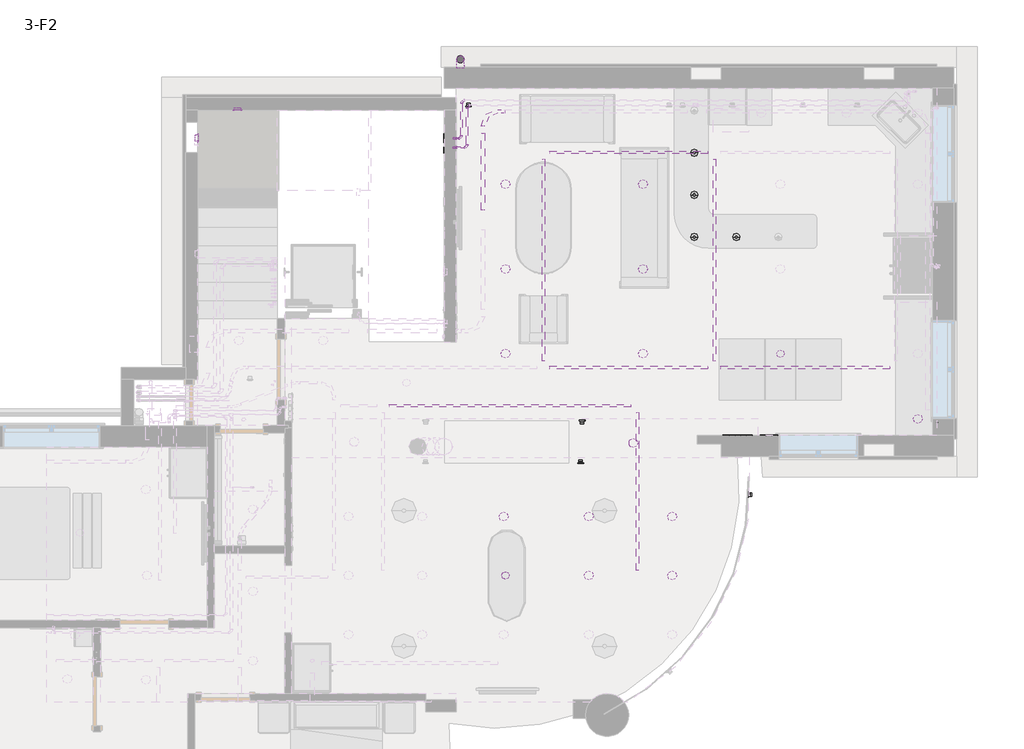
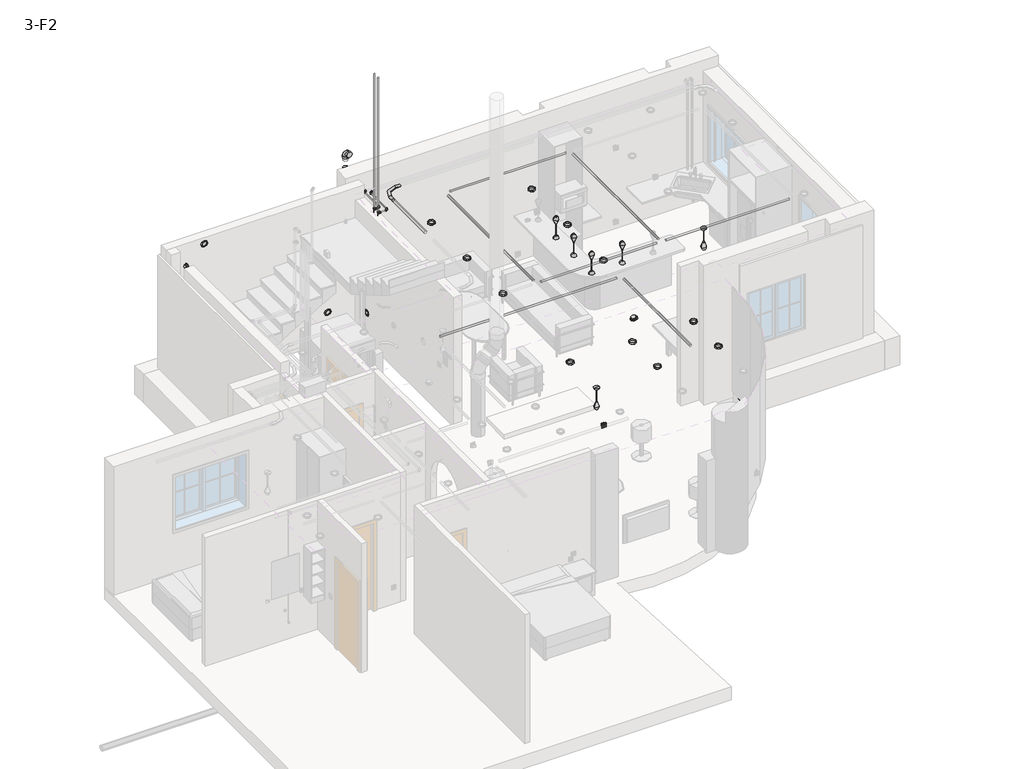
# One storey, part 11 of 12: 23 light fixtures, 12 pipe segments, 11 pipe fittings, 8 cable carrier segments, 8 proxies, 8 switching devices, 3 electric appliances, 1 cable carrier fitting.
"""IFC4 building model written with IfcOpenShell, lengths in millimetres."""

from ifc_helpers import new_model, si_unit, point, frame, frame_2d, origin, place, context, project, spatial, circle_curve, trimmed, segment, composite_curve, outline, extrude, transform, mapped, element, save
from components import wall_mounted_socket_ups_wall_mounted_socket_ups_4524048d, m_conduit_elbow_aluminum_standard_a49322c3, wall_mounted_data_socket_wall_mounted_data_socket_ap_474314e8, m_downlight_recessed_can_152mm_incandescent_120v_1ee42939, m_pendant_lamp_art_glass_led_standard_2036dae1, m_recessed_lamp_round_led_e6f06c98, m_recessed_lamp_round_led_ae0475c0, m_bend_pvc_sch_40_dwv_standard_1fb0f857, m_bend_pvc_sch_40_dwv_standard_be9000f5, m_tee_reducing_sanitary_pvc_sch_40_dwv_standard_acb4ff67, m_tee_reducing_sanitary_pvc_sch_40_dwv_standard_1dbb164d, m_tee_reducing_sanitary_pvc_sch_40_dwv_standard_070fdd32, m_tee_reducing_sanitary_pvc_sch_40_dwv_standard_7913f2a5, switching_device_8f59fbb7

model = new_model("IFC4")

# Units and contexts
model_context = context("Model", 3, world=origin())
ifc_project = project(units=[si_unit("LENGTHUNIT", "METRE", prefix="MILLI")], contexts=[model_context])

# Site, building, storey
site = spatial("IfcSite", under=ifc_project)
building = spatial("IfcBuilding", under=site)
storey = spatial("IfcBuildingStorey", under=building, Name="3-F2", Elevation=6550.0)

# Proxies
placement = place(None, origin())
wall_mounted_socket_ups_wall_mounted_socket_ups_shape = wall_mounted_socket_ups_wall_mounted_socket_ups_4524048d(model_context)
element("IfcBuildingElementProxy", 1, Name="WALL MOUNTED SOCKET : WALL MOUNTED SOCKET", ObjectType="WALL MOUNTED SOCKET : WALL MOUNTED SOCKET", at=placement, inside=storey, context=model_context, shape_type="MappedRepresentation", body=[
    mapped(wall_mounted_socket_ups_wall_mounted_socket_ups_shape, transform((-627.4765921, 6666.6620874, 7000.0), x_axis=(0.0, 1.0, 0.0), y_axis=(0.0, 0.0, 1.0), z_axis=(1.0, 0.0, 0.0))),
])
element("IfcBuildingElementProxy", 2, Name="WALL MOUNTED SOCKET : WALL MOUNTED SOCKET", ObjectType="WALL MOUNTED SOCKET : WALL MOUNTED SOCKET", at=placement, inside=storey, context=model_context, shape_type="MappedRepresentation", body=[
    mapped(wall_mounted_socket_ups_wall_mounted_socket_ups_shape, transform((4052.5234079, 3170.7214801, 7000.0), x_axis=(-1.0, 0.0, 0.0), y_axis=(0.0, 0.0, 1.0), z_axis=(0.0, 1.0, 0.0))),
])
element("IfcBuildingElementProxy", 3, Name="WALL MOUNTED SOCKET UPS : WALL MOUNTED SOCKET UPS", ObjectType="WALL MOUNTED SOCKET UPS : WALL MOUNTED SOCKET UPS", at=placement, inside=storey, context=model_context, shape_type="MappedRepresentation", body=[
    mapped(wall_mounted_socket_ups_wall_mounted_socket_ups_shape, transform((1407.8158273, 2722.6176449, 7000.0), x_axis=(1.0, 0.0, 0.0), y_axis=(0.0, 0.0, 1.0), z_axis=(0.0, -1.0, 0.0))),
])
element("IfcBuildingElementProxy", 4, Name="WALL MOUNTED SOCKET UPS : WALL MOUNTED SOCKET UPS", ObjectType="WALL MOUNTED SOCKET UPS : WALL MOUNTED SOCKET UPS", at=placement, inside=storey, context=model_context, shape_type="MappedRepresentation", body=[
    mapped(wall_mounted_socket_ups_wall_mounted_socket_ups_shape, transform((4155.8960616, 2204.1673876, 7000.0), x_axis=(-0.02173123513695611, -0.9997638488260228, 0.0), y_axis=(0.0, 0.0, 1.0000000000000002), z_axis=(-0.9997638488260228, 0.02173123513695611, 0.0))),
])
element("IfcBuildingElementProxy", 5, Name="WALL MOUNTED SOCKET UPS : WALL MOUNTED SOCKET UPS", ObjectType="WALL MOUNTED SOCKET UPS : WALL MOUNTED SOCKET UPS", at=placement, inside=storey, context=model_context, shape_type="MappedRepresentation", body=[
    mapped(wall_mounted_socket_ups_wall_mounted_socket_ups_shape, transform((-827.4765921, 7844.4560655, 5921.4545455), x_axis=(0.0, -1.0, 0.0), y_axis=(0.0, 0.0, 1.0), z_axis=(-1.0, 0.0, 0.0))),
])
element("IfcBuildingElementProxy", 6, Name="WALL MOUNTED SOCKET UPS : WALL MOUNTED SOCKET UPS", ObjectType="WALL MOUNTED SOCKET UPS : WALL MOUNTED SOCKET UPS", at=placement, inside=storey, context=model_context, shape_type="MappedRepresentation", body=[
    mapped(wall_mounted_socket_ups_wall_mounted_socket_ups_shape, transform((-427.4765921, 8561.6620874, 7000.0), x_axis=(1.0, 0.0, 0.0), y_axis=(0.0, 0.0, 1.0), z_axis=(0.0, -1.0, 0.0))),
])
element("IfcBuildingElementProxy", 7, Name="WALL MOUNTED SOCKET UPS : WALL MOUNTED SOCKET UPS", ObjectType="WALL MOUNTED SOCKET UPS : WALL MOUNTED SOCKET UPS", at=placement, inside=storey, context=model_context, shape_type="MappedRepresentation", body=[
    mapped(wall_mounted_socket_ups_wall_mounted_socket_ups_shape, transform((7235.5234079, 3410.6486583, 7750.0), x_axis=(0.0, -1.0, 0.0), y_axis=(0.0, 0.0, 1.0), z_axis=(-1.0, 0.0, 0.0))),
])
element("IfcBuildingElementProxy", 8, Name="WALL MOUNTED SOCKET UPS : WALL MOUNTED SOCKET UPS", ObjectType="WALL MOUNTED SOCKET UPS : WALL MOUNTED SOCKET UPS", at=placement, inside=storey, context=model_context, shape_type="MappedRepresentation", body=[
    mapped(wall_mounted_socket_ups_wall_mounted_socket_ups_shape, transform((1432.5234079, 3412.6176449, 7000.0), x_axis=(-1.0, 0.0, 0.0), y_axis=(0.0, 0.0, 1.0), z_axis=(0.0, 1.0, 0.0))),
])

# Cable carrier fitting
m_conduit_elbow_aluminum_standard_shape = m_conduit_elbow_aluminum_standard_a49322c3(model_context)
element("IfcCableCarrierFitting", 9, ObjectType="M_Conduit Elbow - Aluminum : Standard", at=placement, inside=storey, context=model_context, shape_type="MappedRepresentation", body=[
    mapped(m_conduit_elbow_aluminum_standard_shape, transform((-191.902625, 8480.3, 9619.835), x_axis=(-1.0, 0.0, 0.0), y_axis=(0.0, -1.0, 0.0), z_axis=(0.0, 0.0, 1.0))),
])

# Cable carrier segments
element("IfcCableCarrierSegment", 10, ObjectType="Power", at=placement, inside=storey, context=model_context, shape_type="SweptSolid", body=[
    extrude(outline(composite_curve([segment(trimmed(circle_curve(frame_2d((9619.835, -191.902625)), 30.165), [point((9619.835, -161.737625))], [point((9650.0, -191.902625))], False, "CARTESIAN"), True, "CONTINUOUS"), segment(trimmed(circle_curve(frame_2d((9619.835, -191.902625)), 30.165), [point((9650.0, -191.902625))], [point((9619.835, -222.067625))], False, "CARTESIAN"), True, "CONTINUOUS"), segment(trimmed(circle_curve(frame_2d((9619.835, -191.902625)), 30.165), [point((9619.835, -222.067625))], [point((9589.67, -191.902625))], False, "CARTESIAN"), True, "CONTINUOUS"), segment(trimmed(circle_curve(frame_2d((9619.835, -191.902625)), 30.165), [point((9589.67, -191.902625))], [point((9619.835, -161.737625))], False, "CARTESIAN"), True, "CONTINUOUS")], self_intersect=False)), frame((0.0, 6857.8429651, 0.0), z_axis=(0.0, 1.0, 0.0), x_axis=(0.0, 0.0, 1.0)), (0.0, 0.0, 1.0), 1266.8570349),
])
element("IfcCableCarrierSegment", 11, ObjectType="Power", at=placement, inside=storey, context=model_context, shape_type="SweptSolid", body=[
    extrude(outline(composite_curve([segment(trimmed(circle_curve(frame_2d((9630.825, 797.2454291)), 21.08), [point((9630.825, 818.3254291))], [point((9651.905, 797.2454291))], False, "CARTESIAN"), True, "CONTINUOUS"), segment(trimmed(circle_curve(frame_2d((9630.825, 797.2454291)), 21.08), [point((9651.905, 797.2454291))], [point((9630.825, 776.1654291))], False, "CARTESIAN"), True, "CONTINUOUS"), segment(trimmed(circle_curve(frame_2d((9630.825, 797.2454291)), 21.08), [point((9630.825, 776.1654291))], [point((9609.745, 797.2454291))], False, "CARTESIAN"), True, "CONTINUOUS"), segment(trimmed(circle_curve(frame_2d((9630.825, 797.2454291)), 21.08), [point((9609.745, 797.2454291))], [point((9630.825, 818.3254291))], False, "CARTESIAN"), True, "CONTINUOUS")], self_intersect=False)), frame((0.0, 4389.4560655, 0.0), z_axis=(0.0, 1.0, 0.0), x_axis=(0.0, 0.0, 1.0)), (0.0, 0.0, 1.0), 3309.175),
])
element("IfcCableCarrierSegment", 12, ObjectType="Power", at=placement, inside=storey, context=model_context, shape_type="SweptSolid", body=[
    extrude(outline(composite_curve([segment(trimmed(circle_curve(frame_2d((9630.825, 3596.8241796)), 21.08), [point((9630.825, 3617.9041796))], [point((9651.905, 3596.8241796))], False, "CARTESIAN"), True, "CONTINUOUS"), segment(trimmed(circle_curve(frame_2d((9630.825, 3596.8241796)), 21.08), [point((9651.905, 3596.8241796))], [point((9630.825, 3575.7441796))], False, "CARTESIAN"), True, "CONTINUOUS"), segment(trimmed(circle_curve(frame_2d((9630.825, 3596.8241796)), 21.08), [point((9630.825, 3575.7441796))], [point((9609.745, 3596.8241796))], False, "CARTESIAN"), True, "CONTINUOUS"), segment(trimmed(circle_curve(frame_2d((9630.825, 3596.8241796)), 21.08), [point((9609.745, 3596.8241796))], [point((9630.825, 3617.9041796))], False, "CARTESIAN"), True, "CONTINUOUS")], self_intersect=False)), frame((0.0, 4389.4560655, 0.0), z_axis=(0.0, 1.0, 0.0), x_axis=(0.0, 0.0, 1.0)), (0.0, 0.0, 1.0), 3309.175),
])
element("IfcCableCarrierSegment", 13, ObjectType="Power", at=placement, inside=storey, context=model_context, shape_type="SweptSolid", body=[
    extrude(outline(composite_curve([segment(trimmed(circle_curve(frame_2d((4284.4560655, 9630.825)), 21.08), [point((4263.3760655, 9630.825))], [point((4284.4560655, 9651.905))], False, "CARTESIAN"), True, "CONTINUOUS"), segment(trimmed(circle_curve(frame_2d((4284.4560655, 9630.825)), 21.08), [point((4284.4560655, 9651.905))], [point((4305.5360655, 9630.825))], False, "CARTESIAN"), True, "CONTINUOUS"), segment(trimmed(circle_curve(frame_2d((4284.4560655, 9630.825)), 21.08), [point((4305.5360655, 9630.825))], [point((4284.4560655, 9609.745))], False, "CARTESIAN"), True, "CONTINUOUS"), segment(trimmed(circle_curve(frame_2d((4284.4560655, 9630.825)), 21.08), [point((4284.4560655, 9609.745))], [point((4263.3760655, 9630.825))], False, "CARTESIAN"), True, "CONTINUOUS")], self_intersect=False)), frame((902.2454291, 0.0, 0.0), z_axis=(1.0, 0.0, 0.0), x_axis=(0.0, 1.0, 0.0)), (0.0, 0.0, 1.0), 2589.5787505),
])
element("IfcCableCarrierSegment", 14, ObjectType="Power", at=placement, inside=storey, context=model_context, shape_type="SweptSolid", body=[
    extrude(outline(composite_curve([segment(trimmed(circle_curve(frame_2d((4284.4560655, 9630.825)), 21.08), [point((4263.3760655, 9630.825))], [point((4284.4560655, 9651.905))], False, "CARTESIAN"), True, "CONTINUOUS"), segment(trimmed(circle_curve(frame_2d((4284.4560655, 9630.825)), 21.08), [point((4284.4560655, 9651.905))], [point((4305.5360655, 9630.825))], False, "CARTESIAN"), True, "CONTINUOUS"), segment(trimmed(circle_curve(frame_2d((4284.4560655, 9630.825)), 21.08), [point((4305.5360655, 9630.825))], [point((4284.4560655, 9609.745))], False, "CARTESIAN"), True, "CONTINUOUS"), segment(trimmed(circle_curve(frame_2d((4284.4560655, 9630.825)), 21.08), [point((4284.4560655, 9609.745))], [point((4263.3760655, 9630.825))], False, "CARTESIAN"), True, "CONTINUOUS")], self_intersect=False)), frame((3701.8241796, 0.0, 0.0), z_axis=(1.0, 0.0, 0.0), x_axis=(0.0, 1.0, 0.0)), (0.0, 0.0, 1.0), 2764.1087505),
])
element("IfcCableCarrierSegment", 15, ObjectType="Power", at=placement, inside=storey, context=model_context, shape_type="SweptSolid", body=[
    extrude(outline(composite_curve([segment(trimmed(circle_curve(frame_2d((7803.6310655, 9630.825)), 21.08), [point((7824.7110655, 9630.825))], [point((7803.6310655, 9609.745))], False, "CARTESIAN"), True, "CONTINUOUS"), segment(trimmed(circle_curve(frame_2d((7803.6310655, 9630.825)), 21.08), [point((7803.6310655, 9609.745))], [point((7782.5510655, 9630.825))], False, "CARTESIAN"), True, "CONTINUOUS"), segment(trimmed(circle_curve(frame_2d((7803.6310655, 9630.825)), 21.08), [point((7782.5510655, 9630.825))], [point((7803.6310655, 9651.905))], False, "CARTESIAN"), True, "CONTINUOUS"), segment(trimmed(circle_curve(frame_2d((7803.6310655, 9630.825)), 21.08), [point((7803.6310655, 9651.905))], [point((7824.7110655, 9630.825))], False, "CARTESIAN"), True, "CONTINUOUS")], self_intersect=False)), frame((902.2454291, 0.0, 0.0), z_axis=(1.0, 0.0, 0.0), x_axis=(0.0, 1.0, 0.0)), (0.0, 0.0, 1.0), 2589.5787505),
])
element("IfcCableCarrierSegment", 16, ObjectType="Power", at=placement, inside=storey, context=model_context, shape_type="SweptSolid", body=[
    extrude(outline(composite_curve([segment(trimmed(circle_curve(frame_2d((3654.4560655, 9630.825)), 21.08), [point((3633.3760655, 9630.825))], [point((3654.4560655, 9651.905))], False, "CARTESIAN"), True, "CONTINUOUS"), segment(trimmed(circle_curve(frame_2d((3654.4560655, 9630.825)), 21.08), [point((3654.4560655, 9651.905))], [point((3675.5360655, 9630.825))], False, "CARTESIAN"), True, "CONTINUOUS"), segment(trimmed(circle_curve(frame_2d((3654.4560655, 9630.825)), 21.08), [point((3675.5360655, 9630.825))], [point((3654.4560655, 9609.745))], False, "CARTESIAN"), True, "CONTINUOUS"), segment(trimmed(circle_curve(frame_2d((3654.4560655, 9630.825)), 21.08), [point((3654.4560655, 9609.745))], [point((3633.3760655, 9630.825))], False, "CARTESIAN"), True, "CONTINUOUS")], self_intersect=False)), frame((-1722.4765921, 0.0, 0.0), z_axis=(1.0, 0.0, 0.0), x_axis=(0.0, 1.0, 0.0)), (0.0, 0.0, 1.0), 3953.0),
])
element("IfcCableCarrierSegment", 17, ObjectType="Power", at=placement, inside=storey, context=model_context, shape_type="SweptSolid", body=[
    extrude(outline(composite_curve([segment(trimmed(circle_curve(frame_2d((9630.825, 2335.5234079)), 21.08), [point((9630.825, 2314.4434079))], [point((9609.745, 2335.5234079))], False, "CARTESIAN"), True, "CONTINUOUS"), segment(trimmed(circle_curve(frame_2d((9630.825, 2335.5234079)), 21.08), [point((9609.745, 2335.5234079))], [point((9630.825, 2356.6034079))], False, "CARTESIAN"), True, "CONTINUOUS"), segment(trimmed(circle_curve(frame_2d((9630.825, 2335.5234079)), 21.08), [point((9630.825, 2356.6034079))], [point((9651.905, 2335.5234079))], False, "CARTESIAN"), True, "CONTINUOUS"), segment(trimmed(circle_curve(frame_2d((9630.825, 2335.5234079)), 21.08), [point((9651.905, 2335.5234079))], [point((9630.825, 2314.4434079))], False, "CARTESIAN"), True, "CONTINUOUS")], self_intersect=False)), frame((0.0, 957.6176449, 0.0), z_axis=(0.0, 1.0, 0.0), x_axis=(0.0, 0.0, 1.0)), (0.0, 0.0, 1.0), 2591.8384206),
])

# Electric appliances
wall_mounted_data_socket_wall_mounted_data_socket_ap_shape = wall_mounted_data_socket_wall_mounted_data_socket_ap_474314e8(model_context)
element("IfcElectricAppliance", 18, ObjectType="WALL MOUNTED DATA SOCKET : WALL MOUNTED DATA SOCKET AP", at=placement, inside=storey, context=model_context, shape_type="MappedRepresentation", body=[
    mapped(wall_mounted_data_socket_wall_mounted_data_socket_ap_shape, transform((-627.4765921, 6572.6620874, 7750.0), x_axis=(0.0, 1.0, 0.0), y_axis=(0.0, 0.0, 1.0), z_axis=(1.0, 0.0, 0.0))),
])
element("IfcElectricAppliance", 19, ObjectType="WALL MOUNTED DATA SOCKET : WALL MOUNTED DATA SOCKET AP", at=placement, inside=storey, context=model_context, shape_type="MappedRepresentation", body=[
    mapped(wall_mounted_data_socket_wall_mounted_data_socket_ap_shape, transform((-627.4765921, 6572.6620874, 7000.0), x_axis=(0.0, 1.0, 0.0), y_axis=(0.0, 0.0, 1.0), z_axis=(1.0, 0.0, 0.0))),
])
element("IfcElectricAppliance", 20, ObjectType="WALL MOUNTED DATA SOCKET : WALL MOUNTED DATA SOCKET AP", at=placement, inside=storey, context=model_context, shape_type="MappedRepresentation", body=[
    mapped(wall_mounted_data_socket_wall_mounted_data_socket_ap_shape, transform((7235.5234079, 3290.7214801, 7750.0), x_axis=(0.0, -1.0, 0.0), y_axis=(0.0, 0.0, 1.0), z_axis=(-1.0, 0.0, 0.0))),
])

# Light fixtures
m_downlight_recessed_can_152mm_incandescent_120v_shape = m_downlight_recessed_can_152mm_incandescent_120v_1ee42939(model_context)
element("IfcLightFixture", 21, ObjectType="M_Downlight - Recessed Can : 203mm Incandescent - 277V", at=placement, inside=storey, context=model_context, shape_type="MappedRepresentation", body=[
    mapped(m_downlight_recessed_can_152mm_incandescent_120v_shape, transform((2427.0414867, 4510.6486583, 6935.4), x_axis=(1.0, 0.0, 0.0), y_axis=(0.0, 1.0, 0.0), z_axis=(0.0, 0.0, 1.0))),
])
element("IfcLightFixture", 22, ObjectType="M_Downlight - Recessed Can : 203mm Incandescent - 277V", at=placement, inside=storey, context=model_context, shape_type="MappedRepresentation", body=[
    mapped(m_downlight_recessed_can_152mm_incandescent_120v_shape, transform((2427.0414867, 5897.9422566, 6935.4), x_axis=(1.0, 0.0, 0.0), y_axis=(0.0, 1.0, 0.0), z_axis=(0.0, 0.0, 1.0))),
])
element("IfcLightFixture", 23, ObjectType="M_Downlight - Recessed Can : 203mm Incandescent - 277V", at=placement, inside=storey, context=model_context, shape_type="MappedRepresentation", body=[
    mapped(m_downlight_recessed_can_152mm_incandescent_120v_shape, transform((177.8005261, 4510.6486583, 6935.4), x_axis=(1.0, 0.0, 0.0), y_axis=(0.0, 1.0, 0.0), z_axis=(0.0, 0.0, 1.0))),
])
element("IfcLightFixture", 24, ObjectType="M_Downlight - Recessed Can : 203mm Incandescent - 277V", at=placement, inside=storey, context=model_context, shape_type="MappedRepresentation", body=[
    mapped(m_downlight_recessed_can_152mm_incandescent_120v_shape, transform((177.8005261, 5897.9422566, 6935.4), x_axis=(1.0, 0.0, 0.0), y_axis=(0.0, 1.0, 0.0), z_axis=(0.0, 0.0, 1.0))),
])
element("IfcLightFixture", 25, ObjectType="M_Downlight - Recessed Can : 203mm Incandescent - 277V", at=placement, inside=storey, context=model_context, shape_type="MappedRepresentation", body=[
    mapped(m_downlight_recessed_can_152mm_incandescent_120v_shape, transform((2906.3219274, 1844.6820281, 6935.4), x_axis=(1.0, 0.0, 0.0), y_axis=(0.0, 1.0, 0.0), z_axis=(0.0, 0.0, 1.0))),
])
element("IfcLightFixture", 26, ObjectType="M_Downlight - Recessed Can : 203mm Incandescent - 277V", at=placement, inside=storey, context=model_context, shape_type="MappedRepresentation", body=[
    mapped(m_downlight_recessed_can_152mm_incandescent_120v_shape, transform((2906.3219274, 877.7272222, 6935.4), x_axis=(1.0, 0.0, 0.0), y_axis=(0.0, 1.0, 0.0), z_axis=(0.0, 0.0, 1.0))),
])
element("IfcLightFixture", 27, ObjectType="M_Downlight - Recessed Can : 203mm Incandescent - 277V", at=placement, inside=storey, context=model_context, shape_type="MappedRepresentation", body=[
    mapped(m_downlight_recessed_can_152mm_incandescent_120v_shape, transform((147.3848417, 1844.6820281, 6935.4), x_axis=(1.0, 0.0, 0.0), y_axis=(0.0, 1.0, 0.0), z_axis=(0.0, 0.0, 1.0))),
])
element("IfcLightFixture", 28, ObjectType="M_Downlight - Recessed Can : 203mm Incandescent - 277V", at=placement, inside=storey, context=model_context, shape_type="MappedRepresentation", body=[
    mapped(m_downlight_recessed_can_152mm_incandescent_120v_shape, transform((1542.0612267, 1844.6820281, 6935.4), x_axis=(1.0, 0.0, 0.0), y_axis=(0.0, 1.0, 0.0), z_axis=(0.0, 0.0, 1.0))),
])
element("IfcLightFixture", 29, ObjectType="M_Downlight - Recessed Can : 203mm Incandescent - 277V", at=placement, inside=storey, context=model_context, shape_type="MappedRepresentation", body=[
    mapped(m_downlight_recessed_can_152mm_incandescent_120v_shape, transform((1542.0612267, 877.7272222, 6935.4), x_axis=(1.0, 0.0, 0.0), y_axis=(0.0, 1.0, 0.0), z_axis=(0.0, 0.0, 1.0))),
])
element("IfcLightFixture", 30, ObjectType="M_Downlight - Recessed Can : 203mm Incandescent - 277V", at=placement, inside=storey, context=model_context, shape_type="MappedRepresentation", body=[
    mapped(m_downlight_recessed_can_152mm_incandescent_120v_shape, transform((6925.5234079, 3441.636834, 6935.4), x_axis=(1.0, 0.0, 0.0), y_axis=(0.0, 1.0, 0.0), z_axis=(0.0, 0.0, 1.0))),
])
element("IfcLightFixture", 31, ObjectType="M_Downlight - Recessed Can : 203mm Incandescent - 277V", at=placement, inside=storey, context=model_context, shape_type="MappedRepresentation", body=[
    mapped(m_downlight_recessed_can_152mm_incandescent_120v_shape, transform((2427.0414867, 7285.2358549, 6935.4), x_axis=(1.0, 0.0, 0.0), y_axis=(0.0, 1.0, 0.0), z_axis=(0.0, 0.0, 1.0))),
])
element("IfcLightFixture", 32, ObjectType="M_Downlight - Recessed Can : 203mm Incandescent - 277V", at=placement, inside=storey, context=model_context, shape_type="MappedRepresentation", body=[
    mapped(m_downlight_recessed_can_152mm_incandescent_120v_shape, transform((177.8005261, 7285.2358549, 6935.4), x_axis=(1.0, 0.0, 0.0), y_axis=(0.0, 1.0, 0.0), z_axis=(0.0, 0.0, 1.0))),
])
m_pendant_lamp_art_glass_led_standard_shape = m_pendant_lamp_art_glass_led_standard_2036dae1(model_context)
element("IfcLightFixture", 33, ObjectType="M_Pendant Lamp - Art Glass - LED : Standard", at=placement, inside=storey, context=model_context, shape_type="MappedRepresentation", body=[
    mapped(m_pendant_lamp_art_glass_led_standard_shape, transform((4677.1953882, 4510.6486583, 9450.0), x_axis=(1.0, 0.0, 0.0), y_axis=(0.0, -1.0, 0.0), z_axis=(0.0, 0.0, -1.0))),
])
element("IfcLightFixture", 34, ObjectType="M_Pendant Lamp - Art Glass - LED : Standard", at=placement, inside=storey, context=model_context, shape_type="MappedRepresentation", body=[
    mapped(m_pendant_lamp_art_glass_led_standard_shape, transform((178.7134671, 877.7272222, 9450.0), x_axis=(1.0, 0.0, 0.0), y_axis=(0.0, -1.0, 0.0), z_axis=(0.0, 0.0, -1.0))),
])
element("IfcLightFixture", 35, ObjectType="M_Pendant Lamp - Art Glass - LED : Standard", at=placement, inside=storey, context=model_context, shape_type="MappedRepresentation", body=[
    mapped(m_pendant_lamp_art_glass_led_standard_shape, transform((3268.7904308, 7801.6620874, 7700.0), x_axis=(1.0, 0.0, 0.0), y_axis=(0.0, 1.0, 0.0), z_axis=(0.0, 0.0, 1.0))),
])
element("IfcLightFixture", 36, ObjectType="M_Pendant Lamp - Art Glass - LED : Standard", at=placement, inside=storey, context=model_context, shape_type="MappedRepresentation", body=[
    mapped(m_pendant_lamp_art_glass_led_standard_shape, transform((3268.7904308, 6421.6620874, 7700.0), x_axis=(1.0, 0.0, 0.0), y_axis=(0.0, 1.0, 0.0), z_axis=(0.0, 0.0, 1.0))),
])
element("IfcLightFixture", 37, ObjectType="M_Pendant Lamp - Art Glass - LED : Standard", at=placement, inside=storey, context=model_context, shape_type="MappedRepresentation", body=[
    mapped(m_pendant_lamp_art_glass_led_standard_shape, transform((3956.8968727, 6421.6620874, 7700.0), x_axis=(1.0, 0.0, 0.0), y_axis=(0.0, 1.0, 0.0), z_axis=(0.0, 0.0, 1.0))),
])
element("IfcLightFixture", 38, ObjectType="M_Pendant Lamp - Art Glass - LED : Standard", at=placement, inside=storey, context=model_context, shape_type="MappedRepresentation", body=[
    mapped(m_pendant_lamp_art_glass_led_standard_shape, transform((3268.7904308, 7111.6620874, 7700.0), x_axis=(1.0, 0.0, 0.0), y_axis=(0.0, 1.0, 0.0), z_axis=(0.0, 0.0, 1.0))),
])
m_recessed_lamp_round_led_shape = m_recessed_lamp_round_led_e6f06c98(model_context)
element("IfcLightFixture", 39, ObjectType="M_Recessed Lamp - Round - LED : 100mm Trimless Downlight", at=placement, inside=storey, context=model_context, shape_type="MappedRepresentation", body=[
    mapped(m_recessed_lamp_round_led_shape, transform((2268.722062, 3047.1839324, 9032.4585472), x_axis=(0.0, 1.0, 0.0), y_axis=(0.9708763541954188, 0.0, 0.2395811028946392), z_axis=(0.2395811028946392, 0.0, -0.9708763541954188))),
])
element("IfcLightFixture", 40, ObjectType="M_Recessed Lamp - Round - LED : 100mm Trimless Downlight", at=placement, inside=storey, context=model_context, shape_type="MappedRepresentation", body=[
    mapped(m_recessed_lamp_round_led_shape, transform((-4207.4765921, 8501.6620874, 9760.5263158), x_axis=(1.0, 0.0, 0.0), y_axis=(0.0, 0.0, 1.0), z_axis=(0.0, -1.0, 0.0))),
])
element("IfcLightFixture", 41, ObjectType="M_Recessed Lamp - Round - LED : 100mm Trimless Downlight", at=placement, inside=storey, context=model_context, shape_type="MappedRepresentation", body=[
    mapped(m_recessed_lamp_round_led_shape, transform((-4857.4765921, 8043.0590764, 9710.5263158), x_axis=(0.0, 0.0, 1.0), y_axis=(0.0, -1.0, 0.0), z_axis=(1.0, 0.0, 0.0))),
])
element("IfcLightFixture", 42, ObjectType="M_Recessed Lamp - Round - LED : 100mm Trimless Downlight", at=placement, inside=storey, context=model_context, shape_type="MappedRepresentation", body=[
    mapped(m_recessed_lamp_round_led_shape, transform((-1442.4765921, 8501.6620874, 7170.4545455), x_axis=(1.0, 0.0, 0.0), y_axis=(0.0, 0.0, 1.0), z_axis=(0.0, -1.0, 0.0))),
])
m_recessed_lamp_round_led_2_shape = m_recessed_lamp_round_led_ae0475c0(model_context)
element("IfcLightFixture", 43, ObjectType="M_Recessed Lamp - Round - LED : 100mm Trimless Downlight", at=placement, inside=storey, context=model_context, shape_type="MappedRepresentation", body=[
    mapped(m_recessed_lamp_round_led_2_shape, transform((-827.4765921, 8043.0590764, 7220.4545455), x_axis=(0.0, 1.0, 0.0), y_axis=(0.0, 0.0, -1.0), z_axis=(-1.0, 0.0, 0.0))),
])

# Pipe fittings
m_bend_pvc_sch_40_dwv_standard_shape = m_bend_pvc_sch_40_dwv_standard_1fb0f857(model_context)
element("IfcPipeFitting", 44, ObjectType="M_Bend - PVC - Sch 40 - DWV : Standard", at=placement, inside=storey, context=model_context, shape_type="MappedRepresentation", body=[
    mapped(m_bend_pvc_sch_40_dwv_standard_shape, transform((-559.7171152, 9331.6620874, 10169.0), x_axis=(0.0, 0.0, 1.0), y_axis=(0.0, -1.0, 0.0), z_axis=(1.0, 0.0, 0.0))),
])
m_bend_pvc_sch_40_dwv_standard_2_shape = m_bend_pvc_sch_40_dwv_standard_be9000f5(model_context)
element("IfcPipeFitting", 45, ObjectType="M_Bend - PVC - Sch 40 - DWV : Standard", at=placement, inside=storey, context=model_context, shape_type="MappedRepresentation", body=[
    mapped(m_bend_pvc_sch_40_dwv_standard_2_shape, transform((-542.4765921, 8656.372794, 9620.0), x_axis=(-1.0, 0.0, 0.0), y_axis=(0.0, -1.0, 0.0), z_axis=(0.0, 0.0, 1.0))),
])
element("IfcPipeFitting", 46, ObjectType="M_Bend - PVC - Sch 40 - DWV : Standard", at=placement, inside=storey, context=model_context, shape_type="MappedRepresentation", body=[
    mapped(m_bend_pvc_sch_40_dwv_standard_2_shape, transform((-452.4765921, 8576.372794, 9620.0), x_axis=(-1.0, 0.0, 0.0), y_axis=(0.0, -1.0, 0.0), z_axis=(0.0, 0.0, 1.0))),
])
element("IfcPipeFitting", 47, ObjectType="M_Bend - PVC - Sch 40 - DWV : Standard", at=placement, inside=storey, context=model_context, shape_type="MappedRepresentation", body=[
    mapped(m_bend_pvc_sch_40_dwv_standard_2_shape, transform((-662.4765921, 7886.6620874, 3450.0), x_axis=(0.0, 0.0, -1.0), y_axis=(1.0, 0.0, 0.0), z_axis=(0.0, -1.0, 0.0))),
])
element("IfcPipeFitting", 48, ObjectType="M_Bend - PVC - Sch 40 - DWV : Standard", at=placement, inside=storey, context=model_context, shape_type="MappedRepresentation", body=[
    mapped(m_bend_pvc_sch_40_dwv_standard_2_shape, transform((-542.4765921, 8036.6620874, 9620.0), x_axis=(1.0, 0.0, 0.0), y_axis=(0.0, 1.0, 0.0), z_axis=(0.0, 0.0, 1.0))),
])
element("IfcPipeFitting", 49, ObjectType="M_Bend - PVC - Sch 40 - DWV : Standard", at=placement, inside=storey, context=model_context, shape_type="MappedRepresentation", body=[
    mapped(m_bend_pvc_sch_40_dwv_standard_2_shape, transform((-452.4765921, 7886.6620874, 9620.0), x_axis=(1.0, 0.0, 0.0), y_axis=(0.0, 1.0, 0.0), z_axis=(0.0, 0.0, 1.0))),
])
element("IfcPipeFitting", 50, ObjectType="M_Bend - PVC - Sch 40 - DWV : Standard", at=placement, inside=storey, context=model_context, shape_type="MappedRepresentation", body=[
    mapped(m_bend_pvc_sch_40_dwv_standard_2_shape, transform((-662.4765921, 8036.6620874, 3450.0), x_axis=(0.0, 0.0, -1.0), y_axis=(0.995342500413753, 0.09640179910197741, 0.0), z_axis=(0.09640179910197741, -0.995342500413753, 0.0))),
])
m_tee_reducing_sanitary_pvc_sch_40_dwv_standard_shape = m_tee_reducing_sanitary_pvc_sch_40_dwv_standard_acb4ff67(model_context)
element("IfcPipeFitting", 51, ObjectType="M_Tee Reducing Sanitary - PVC - Sch 40 - DWV : Standard", at=placement, inside=storey, context=model_context, shape_type="MappedRepresentation", body=[
    mapped(m_tee_reducing_sanitary_pvc_sch_40_dwv_standard_shape, transform((-559.7171152, 9331.4749674, 2864.9945571), x_axis=(0.9999999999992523, 0.0, -1.222961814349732e-06), y_axis=(-1.222961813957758e-06, -2.5318458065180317e-05, -0.9999999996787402), z_axis=(-3.096350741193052e-11, 0.9999999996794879, -2.5318458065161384e-05))),
])
m_tee_reducing_sanitary_pvc_sch_40_dwv_standard_2_shape = m_tee_reducing_sanitary_pvc_sch_40_dwv_standard_1dbb164d(model_context)
element("IfcPipeFitting", 52, ObjectType="M_Tee Reducing Sanitary - PVC - Sch 40 - DWV : Standard", at=placement, inside=storey, context=model_context, shape_type="MappedRepresentation", body=[
    mapped(m_tee_reducing_sanitary_pvc_sch_40_dwv_standard_2_shape, transform((-662.4765921, 8036.6620874, 6270.0015045), x_axis=(0.0, 0.0, -1.0), y_axis=(-1.0, 0.0, 0.0), z_axis=(0.0, 1.0, 0.0))),
])
m_tee_reducing_sanitary_pvc_sch_40_dwv_standard_3_shape = m_tee_reducing_sanitary_pvc_sch_40_dwv_standard_070fdd32(model_context)
element("IfcPipeFitting", 53, ObjectType="M_Tee Reducing Sanitary - PVC - Sch 40 - DWV : Standard", at=placement, inside=storey, context=model_context, shape_type="MappedRepresentation", body=[
    mapped(m_tee_reducing_sanitary_pvc_sch_40_dwv_standard_3_shape, transform((-662.4765921, 7886.6620874, 9620.0), x_axis=(0.0, 0.0, 1.0), y_axis=(-1.0, 0.0, 0.0), z_axis=(0.0, -1.0, 0.0))),
])
m_tee_reducing_sanitary_pvc_sch_40_dwv_standard_4_shape = m_tee_reducing_sanitary_pvc_sch_40_dwv_standard_7913f2a5(model_context)
element("IfcPipeFitting", 54, ObjectType="M_Tee Reducing Sanitary - PVC - Sch 40 - DWV : Standard", at=placement, inside=storey, context=model_context, shape_type="MappedRepresentation", body=[
    mapped(m_tee_reducing_sanitary_pvc_sch_40_dwv_standard_4_shape, transform((-662.4765921, 8036.6620874, 9620.0), x_axis=(0.0, 0.0, 1.0), y_axis=(-1.0, 0.0, 0.0), z_axis=(0.0, -1.0, 0.0))),
])

# Pipe segments
element("IfcPipeSegment", 55, ObjectType="PVC - DWV", at=placement, inside=storey, context=model_context, shape_type="SweptSolid", body=[
    extrude(outline(composite_curve([segment(trimmed(circle_curve(frame_2d((8036.6620874, 9620.0)), 13.335), [point((8049.9970874, 9620.0))], [point((8036.6620874, 9606.665))], False, "CARTESIAN"), True, "CONTINUOUS"), segment(trimmed(circle_curve(frame_2d((8036.6620874, 9620.0)), 13.335), [point((8036.6620874, 9606.665))], [point((8023.3270874, 9620.0))], False, "CARTESIAN"), True, "CONTINUOUS"), segment(trimmed(circle_curve(frame_2d((8036.6620874, 9620.0)), 13.335), [point((8023.3270874, 9620.0))], [point((8036.6620874, 9633.335))], False, "CARTESIAN"), True, "CONTINUOUS"), segment(trimmed(circle_curve(frame_2d((8036.6620874, 9620.0)), 13.335), [point((8036.6620874, 9633.335))], [point((8049.9970874, 9620.0))], False, "CARTESIAN"), True, "CONTINUOUS")], self_intersect=False)), frame((-617.4586234, 0.0, 0.0), z_axis=(1.0, 0.0, 0.0), x_axis=(0.0, 1.0, 0.0)), (0.0, 0.0, 1.0), 28.1679687),
])
element("IfcPipeSegment", 56, ObjectType="PVC - DWV", at=placement, inside=storey, context=model_context, shape_type="SweptSolid", body=[
    extrude(outline(composite_curve([segment(trimmed(circle_curve(frame_2d((7886.6620874, 9620.0)), 13.335), [point((7899.9970874, 9620.0))], [point((7886.6620874, 9606.665))], False, "CARTESIAN"), True, "CONTINUOUS"), segment(trimmed(circle_curve(frame_2d((7886.6620874, 9620.0)), 13.335), [point((7886.6620874, 9606.665))], [point((7873.3270874, 9620.0))], False, "CARTESIAN"), True, "CONTINUOUS"), segment(trimmed(circle_curve(frame_2d((7886.6620874, 9620.0)), 13.335), [point((7873.3270874, 9620.0))], [point((7886.6620874, 9633.335))], False, "CARTESIAN"), True, "CONTINUOUS"), segment(trimmed(circle_curve(frame_2d((7886.6620874, 9620.0)), 13.335), [point((7886.6620874, 9633.335))], [point((7899.9970874, 9620.0))], False, "CARTESIAN"), True, "CONTINUOUS")], self_intersect=False)), frame((-617.4586234, 0.0, 0.0), z_axis=(1.0, 0.0, 0.0), x_axis=(0.0, 1.0, 0.0)), (0.0, 0.0, 1.0), 118.1679687),
])
element("IfcPipeSegment", 57, ObjectType="PVC - DWV", at=placement, inside=storey, context=model_context, shape_type="SweptSolid", body=[
    extrude(outline(composite_curve([segment(trimmed(circle_curve(frame_2d((9620.0, -542.4765921)), 13.335), [point((9620.0, -529.1415921))], [point((9633.335, -542.4765921))], False, "CARTESIAN"), True, "CONTINUOUS"), segment(trimmed(circle_curve(frame_2d((9620.0, -542.4765921)), 13.335), [point((9633.335, -542.4765921))], [point((9620.0, -555.8115921))], False, "CARTESIAN"), True, "CONTINUOUS"), segment(trimmed(circle_curve(frame_2d((9620.0, -542.4765921)), 13.335), [point((9620.0, -555.8115921))], [point((9606.665, -542.4765921))], False, "CARTESIAN"), True, "CONTINUOUS"), segment(trimmed(circle_curve(frame_2d((9620.0, -542.4765921)), 13.335), [point((9606.665, -542.4765921))], [point((9620.0, -529.1415921))], False, "CARTESIAN"), True, "CONTINUOUS")], self_intersect=False)), frame((0.0, 8083.4761499, 0.0), z_axis=(0.0, 1.0, 0.0), x_axis=(0.0, 0.0, 1.0)), (0.0, 0.0, 1.0), 526.0825816),
])
element("IfcPipeSegment", 58, ObjectType="PVC - DWV", at=placement, inside=storey, context=model_context, shape_type="SweptSolid", body=[
    extrude(outline(composite_curve([segment(trimmed(circle_curve(frame_2d((9620.0, -452.4765921)), 13.335), [point((9620.0, -439.1415921))], [point((9633.335, -452.4765921))], False, "CARTESIAN"), True, "CONTINUOUS"), segment(trimmed(circle_curve(frame_2d((9620.0, -452.4765921)), 13.335), [point((9633.335, -452.4765921))], [point((9620.0, -465.8115921))], False, "CARTESIAN"), True, "CONTINUOUS"), segment(trimmed(circle_curve(frame_2d((9620.0, -452.4765921)), 13.335), [point((9620.0, -465.8115921))], [point((9606.665, -452.4765921))], False, "CARTESIAN"), True, "CONTINUOUS"), segment(trimmed(circle_curve(frame_2d((9620.0, -452.4765921)), 13.335), [point((9606.665, -452.4765921))], [point((9620.0, -439.1415921))], False, "CARTESIAN"), True, "CONTINUOUS")], self_intersect=False)), frame((0.0, 7933.4761499, 0.0), z_axis=(0.0, 1.0, 0.0), x_axis=(0.0, 0.0, 1.0)), (0.0, 0.0, 1.0), 596.0825816),
])
element("IfcPipeSegment", 59, ObjectType="PVC - DWV", at=placement, inside=storey, context=model_context, shape_type="SweptSolid", body=[
    extrude(outline(composite_curve([segment(trimmed(circle_curve(frame_2d((8036.6620874, 6270.0015045)), 13.335), [point((8023.3270874, 6270.0015045))], [point((8036.6620874, 6283.3365045))], False, "CARTESIAN"), True, "CONTINUOUS"), segment(trimmed(circle_curve(frame_2d((8036.6620874, 6270.0015045)), 13.335), [point((8036.6620874, 6283.3365045))], [point((8049.9970874, 6270.0015045))], False, "CARTESIAN"), True, "CONTINUOUS"), segment(trimmed(circle_curve(frame_2d((8036.6620874, 6270.0015045)), 13.335), [point((8049.9970874, 6270.0015045))], [point((8036.6620874, 6256.6665045))], False, "CARTESIAN"), True, "CONTINUOUS"), segment(trimmed(circle_curve(frame_2d((8036.6620874, 6270.0015045)), 13.335), [point((8036.6620874, 6256.6665045))], [point((8023.3270874, 6270.0015045))], False, "CARTESIAN"), True, "CONTINUOUS")], self_intersect=False)), frame((-617.4586234, 0.0, 0.0), z_axis=(1.0, 0.0, 0.0), x_axis=(0.0, 1.0, 0.0)), (0.0, 0.0, 1.0), 1169.6679688),
])
element("IfcPipeSegment", 60, ObjectType="PVC - DWV", at=placement, inside=storey, context=model_context, shape_type="SweptSolid", body=[
    extrude(outline(composite_curve([segment(trimmed(circle_curve(frame_2d((-662.4765921, 8036.6620874)), 16.7005), [point((-645.7760921, 8036.6620874))], [point((-662.4765921, 8019.9615874))], False, "CARTESIAN"), True, "CONTINUOUS"), segment(trimmed(circle_curve(frame_2d((-662.4765921, 8036.6620874)), 16.7005), [point((-662.4765921, 8019.9615874))], [point((-679.1770921, 8036.6620874))], False, "CARTESIAN"), True, "CONTINUOUS"), segment(trimmed(circle_curve(frame_2d((-662.4765921, 8036.6620874)), 16.7005), [point((-679.1770921, 8036.6620874))], [point((-662.4765921, 8053.3625874))], False, "CARTESIAN"), True, "CONTINUOUS"), segment(trimmed(circle_curve(frame_2d((-662.4765921, 8036.6620874)), 16.7005), [point((-662.4765921, 8053.3625874))], [point((-645.7760921, 8036.6620874))], False, "CARTESIAN"), True, "CONTINUOUS")], self_intersect=False)), frame((0.0, 0.0, 6313.7022233), z_axis=(0.0, 0.0, 1.0), x_axis=(1.0, 0.0, 0.0)), (0.0, 0.0, 1.0), 3262.597058),
])
element("IfcPipeSegment", 61, ObjectType="PVC - DWV", at=placement, inside=storey, context=model_context, shape_type="SweptSolid", body=[
    extrude(outline(composite_curve([segment(trimmed(circle_curve(frame_2d((-662.4765921, 8036.6620874)), 16.7005), [point((-645.7760921, 8036.6620874))], [point((-662.4765921, 8019.9615874))], False, "CARTESIAN"), True, "CONTINUOUS"), segment(trimmed(circle_curve(frame_2d((-662.4765921, 8036.6620874)), 16.7005), [point((-662.4765921, 8019.9615874))], [point((-679.1770921, 8036.6620874))], False, "CARTESIAN"), True, "CONTINUOUS"), segment(trimmed(circle_curve(frame_2d((-662.4765921, 8036.6620874)), 16.7005), [point((-679.1770921, 8036.6620874))], [point((-662.4765921, 8053.3625874))], False, "CARTESIAN"), True, "CONTINUOUS"), segment(trimmed(circle_curve(frame_2d((-662.4765921, 8036.6620874)), 16.7005), [point((-662.4765921, 8053.3625874))], [point((-645.7760921, 8036.6620874))], False, "CARTESIAN"), True, "CONTINUOUS")], self_intersect=False)), frame((0.0, 0.0, 9648.8219375), z_axis=(0.0, 0.0, 1.0), x_axis=(1.0, 0.0, 0.0)), (0.0, 0.0, 1.0), 3172.4100938),
])
element("IfcPipeSegment", 62, ObjectType="PVC - DWV", at=placement, inside=storey, context=model_context, shape_type="SweptSolid", body=[
    extrude(outline(composite_curve([segment(trimmed(circle_curve(frame_2d((-662.4765921, 7886.6620874)), 13.335), [point((-649.1415921, 7886.6620874))], [point((-662.4765921, 7873.3270874))], False, "CARTESIAN"), True, "CONTINUOUS"), segment(trimmed(circle_curve(frame_2d((-662.4765921, 7886.6620874)), 13.335), [point((-662.4765921, 7873.3270874))], [point((-675.8115921, 7886.6620874))], False, "CARTESIAN"), True, "CONTINUOUS"), segment(trimmed(circle_curve(frame_2d((-662.4765921, 7886.6620874)), 13.335), [point((-675.8115921, 7886.6620874))], [point((-662.4765921, 7899.9970874))], False, "CARTESIAN"), True, "CONTINUOUS"), segment(trimmed(circle_curve(frame_2d((-662.4765921, 7886.6620874)), 13.335), [point((-662.4765921, 7899.9970874))], [point((-649.1415921, 7886.6620874))], False, "CARTESIAN"), True, "CONTINUOUS")], self_intersect=False)), frame((0.0, 0.0, 3496.8140625), z_axis=(0.0, 0.0, 1.0), x_axis=(1.0, 0.0, 0.0)), (0.0, 0.0, 1.0), 6082.0352188),
])
element("IfcPipeSegment", 63, ObjectType="PVC - DWV", at=placement, inside=storey, context=model_context, shape_type="SweptSolid", body=[
    extrude(outline(composite_curve([segment(trimmed(circle_curve(frame_2d((-662.4765921, 7886.6620874)), 16.7005), [point((-645.7760921, 7886.6620874))], [point((-662.4765921, 7869.9615874))], False, "CARTESIAN"), True, "CONTINUOUS"), segment(trimmed(circle_curve(frame_2d((-662.4765921, 7886.6620874)), 16.7005), [point((-662.4765921, 7869.9615874))], [point((-679.1770921, 7886.6620874))], False, "CARTESIAN"), True, "CONTINUOUS"), segment(trimmed(circle_curve(frame_2d((-662.4765921, 7886.6620874)), 16.7005), [point((-679.1770921, 7886.6620874))], [point((-662.4765921, 7903.3625874))], False, "CARTESIAN"), True, "CONTINUOUS"), segment(trimmed(circle_curve(frame_2d((-662.4765921, 7886.6620874)), 16.7005), [point((-662.4765921, 7903.3625874))], [point((-645.7760921, 7886.6620874))], False, "CARTESIAN"), True, "CONTINUOUS")], self_intersect=False)), frame((0.0, 0.0, 9648.8219375), z_axis=(0.0, 0.0, 1.0), x_axis=(1.0, 0.0, 0.0)), (0.0, 0.0, 1.0), 3172.4100938),
])
element("IfcPipeSegment", 64, ObjectType="PVC - DWV", at=placement, inside=storey, context=model_context, shape_type="SweptSolid", body=[
    extrude(outline(composite_curve([segment(trimmed(circle_curve(frame_2d((-662.4765921, 8036.6620874)), 13.335), [point((-649.1415921, 8036.6620874))], [point((-662.4765921, 8023.3270874))], False, "CARTESIAN"), True, "CONTINUOUS"), segment(trimmed(circle_curve(frame_2d((-662.4765921, 8036.6620874)), 13.335), [point((-662.4765921, 8023.3270874))], [point((-675.8115921, 8036.6620874))], False, "CARTESIAN"), True, "CONTINUOUS"), segment(trimmed(circle_curve(frame_2d((-662.4765921, 8036.6620874)), 13.335), [point((-675.8115921, 8036.6620874))], [point((-662.4765921, 8049.9970874))], False, "CARTESIAN"), True, "CONTINUOUS"), segment(trimmed(circle_curve(frame_2d((-662.4765921, 8036.6620874)), 13.335), [point((-662.4765921, 8049.9970874))], [point((-649.1415921, 8036.6620874))], False, "CARTESIAN"), True, "CONTINUOUS")], self_intersect=False)), frame((0.0, 0.0, 3496.8140625), z_axis=(0.0, 0.0, 1.0), x_axis=(1.0, 0.0, 0.0)), (0.0, 0.0, 1.0), 2746.9155045),
])
element("IfcPipeSegment", 65, ObjectType="PVC - DWV", at=placement, inside=storey, context=model_context, shape_type="SweptSolid", body=[
    extrude(outline(composite_curve([segment(trimmed(circle_curve(frame_2d((-559.7171152, 9331.4785321)), 57.15), [point((-502.5671152, 9331.4785321))], [point((-559.7171152, 9274.3285321))], False, "CARTESIAN"), True, "CONTINUOUS"), segment(trimmed(circle_curve(frame_2d((-559.7171152, 9331.4785321)), 57.15), [point((-559.7171152, 9274.3285321))], [point((-616.8671152, 9331.4785321))], False, "CARTESIAN"), True, "CONTINUOUS"), segment(trimmed(circle_curve(frame_2d((-559.7171152, 9331.4785321)), 57.15), [point((-616.8671152, 9331.4785321))], [point((-559.7171152, 9388.6285321))], False, "CARTESIAN"), True, "CONTINUOUS"), segment(trimmed(circle_curve(frame_2d((-559.7171152, 9331.4785321)), 57.15), [point((-559.7171152, 9388.6285321))], [point((-502.5671152, 9331.4785321))], False, "CARTESIAN"), True, "CONTINUOUS")], self_intersect=False)), frame((0.0, 0.0, 3005.7922133), z_axis=(0.0, 0.0, 1.0), x_axis=(1.0, 0.0, 0.0)), (0.0, 0.0, 1.0), 6784.8575867),
])
element("IfcPipeSegment", 66, ObjectType="PVC - DWV", at=placement, inside=storey, context=model_context, shape_type="SweptSolid", body=[
    extrude(outline(composite_curve([segment(trimmed(circle_curve(frame_2d((-559.7171152, 9331.6620874)), 57.15), [point((-502.5671152, 9331.6620874))], [point((-559.7171152, 9274.5120874))], False, "CARTESIAN"), True, "CONTINUOUS"), segment(trimmed(circle_curve(frame_2d((-559.7171152, 9331.6620874)), 57.15), [point((-559.7171152, 9274.5120874))], [point((-616.8671152, 9331.6620874))], False, "CARTESIAN"), True, "CONTINUOUS"), segment(trimmed(circle_curve(frame_2d((-559.7171152, 9331.6620874)), 57.15), [point((-616.8671152, 9331.6620874))], [point((-559.7171152, 9388.8120874))], False, "CARTESIAN"), True, "CONTINUOUS"), segment(trimmed(circle_curve(frame_2d((-559.7171152, 9331.6620874)), 57.15), [point((-559.7171152, 9388.8120874))], [point((-502.5671152, 9331.6620874))], False, "CARTESIAN"), True, "CONTINUOUS")], self_intersect=False)), frame((0.0, 0.0, 9960.525), z_axis=(0.0, 0.0, 1.0), x_axis=(1.0, 0.0, 0.0)), (0.0, 0.0, 1.0), 65.6),
])

# Switching devices
switching_device_shape = switching_device_8f59fbb7(model_context)
element("IfcSwitchingDevice", 67, ObjectType="TWO WAY ONE GANG LIGHTING SWICH : TWO WAY ONE GANG LIGHTING SWICH", at=placement, inside=storey, context=model_context, shape_type="MappedRepresentation", body=[
    mapped(switching_device_shape, transform((3982.5234079, 3170.7214801, 7700.0), x_axis=(-1.0, 0.0, 0.0), y_axis=(0.0, 0.0, 1.0), z_axis=(0.0, 1.0, 0.0))),
])
element("IfcSwitchingDevice", 68, ObjectType="TWO WAY ONE GANG LIGHTING SWICH : TWO WAY ONE GANG LIGHTING SWICH", at=placement, inside=storey, context=model_context, shape_type="MappedRepresentation", body=[
    mapped(switching_device_shape, transform((4589.7734079, 3170.7214801, 7700.0), x_axis=(-1.0, 0.0, 0.0), y_axis=(0.0, 0.0, 1.0), z_axis=(0.0, 1.0, 0.0))),
])
element("IfcSwitchingDevice", 69, ObjectType="TWO WAY ONE GANG LIGHTING SWICH : TWO WAY ONE GANG LIGHTING SWICH", at=placement, inside=storey, context=model_context, shape_type="MappedRepresentation", body=[
    mapped(switching_device_shape, transform((3882.5234079, 3170.7214801, 7700.0), x_axis=(-1.0, 0.0, 0.0), y_axis=(0.0, 0.0, 1.0), z_axis=(0.0, 1.0, 0.0))),
])
element("IfcSwitchingDevice", 70, ObjectType="TWO WAY ONE GANG LIGHTING SWICH : TWO WAY ONE GANG LIGHTING SWICH", at=placement, inside=storey, context=model_context, shape_type="MappedRepresentation", body=[
    mapped(switching_device_shape, transform((4172.5234079, 3170.7214801, 7700.0), x_axis=(-1.0, 0.0, 0.0), y_axis=(0.0, 0.0, 1.0), z_axis=(0.0, 1.0, 0.0))),
])
element("IfcSwitchingDevice", 71, ObjectType="TWO WAY ONE GANG LIGHTING SWICH : TWO WAY ONE GANG LIGHTING SWICH", at=placement, inside=storey, context=model_context, shape_type="MappedRepresentation", body=[
    mapped(switching_device_shape, transform((4072.5234079, 3170.7214801, 7700.0), x_axis=(-1.0, 0.0, 0.0), y_axis=(0.0, 0.0, 1.0), z_axis=(0.0, 1.0, 0.0))),
])
element("IfcSwitchingDevice", 72, ObjectType="TWO WAY ONE GANG LIGHTING SWICH : TWO WAY ONE GANG LIGHTING SWICH", at=placement, inside=storey, context=model_context, shape_type="MappedRepresentation", body=[
    mapped(switching_device_shape, transform((3782.5234079, 3170.7214801, 7700.0), x_axis=(-1.0, 0.0, 0.0), y_axis=(0.0, 0.0, 1.0), z_axis=(0.0, 1.0, 0.0))),
])
element("IfcSwitchingDevice", 73, ObjectType="TWO WAY ONE GANG LIGHTING SWICH : TWO WAY ONE GANG LIGHTING SWICH", at=placement, inside=storey, context=model_context, shape_type="MappedRepresentation", body=[
    mapped(switching_device_shape, transform((4489.7734079, 3170.7214801, 7700.0), x_axis=(-1.0, 0.0, 0.0), y_axis=(0.0, 0.0, 1.0), z_axis=(0.0, 1.0, 0.0))),
])
element("IfcSwitchingDevice", 74, ObjectType="TWO WAY ONE GANG LIGHTING SWICH : TWO WAY ONE GANG LIGHTING SWICH", at=placement, inside=storey, context=model_context, shape_type="MappedRepresentation", body=[
    mapped(switching_device_shape, transform((4394.5734079, 3170.7214801, 7700.0), x_axis=(-1.0, 0.0, 0.0), y_axis=(0.0, 0.0, 1.0), z_axis=(0.0, 1.0, 0.0))),
])

save(model, "model.ifc")
